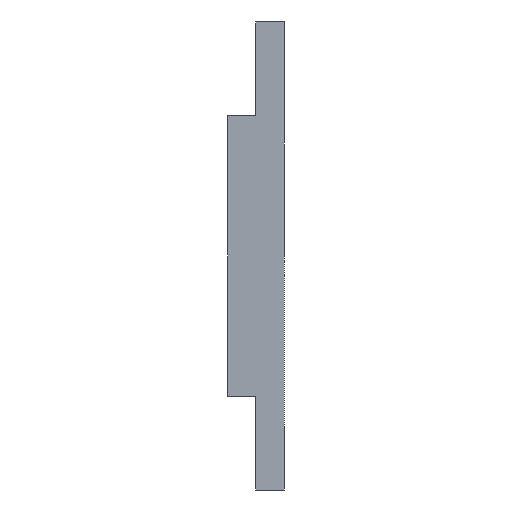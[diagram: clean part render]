
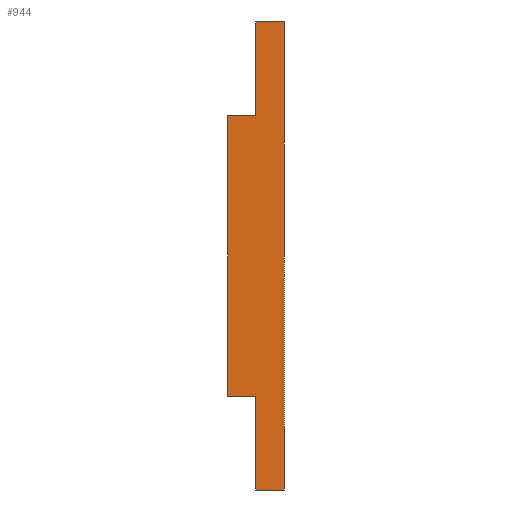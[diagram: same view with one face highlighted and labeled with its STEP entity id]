
A CAD part, left-side view. The second image highlights one B-rep face of the part: STEP entity #944.
In plain terms, the highlighted planar face has unit normal (-1, 0, 0).
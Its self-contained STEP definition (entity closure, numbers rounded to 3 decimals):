
#6 = LINE ( 'NONE', #756, #823 ) ;
#18 = PLANE ( 'NONE',  #511 ) ;
#28 = CARTESIAN_POINT ( 'NONE',  ( 0., 0., -25. ) ) ;
#34 = LINE ( 'NONE', #643, #397 ) ;
#41 = VECTOR ( 'NONE', #421, 1000. ) ;
#75 = VECTOR ( 'NONE', #122, 1000. ) ;
#103 = ORIENTED_EDGE ( 'NONE', *, *, #389, .F. ) ;
#114 = VERTEX_POINT ( 'NONE', #408 ) ;
#122 = DIRECTION ( 'NONE',  ( 0., 0., 1. ) ) ;
#124 = CARTESIAN_POINT ( 'NONE',  ( 0., 3., -25. ) ) ;
#137 = LINE ( 'NONE', #441, #884 ) ;
#161 = CARTESIAN_POINT ( 'NONE',  ( 0., 6., -15. ) ) ;
#171 = EDGE_CURVE ( 'NONE', #376, #194, #427, .T. ) ;
#174 = ORIENTED_EDGE ( 'NONE', *, *, #690, .T. ) ;
#175 = VECTOR ( 'NONE', #546, 1000. ) ;
#190 = ORIENTED_EDGE ( 'NONE', *, *, #171, .T. ) ;
#194 = VERTEX_POINT ( 'NONE', #416 ) ;
#196 = LINE ( 'NONE', #458, #175 ) ;
#207 = ORIENTED_EDGE ( 'NONE', *, *, #957, .F. ) ;
#208 = LINE ( 'NONE', #437, #777 ) ;
#248 = EDGE_CURVE ( 'NONE', #114, #194, #196, .T. ) ;
#251 = VERTEX_POINT ( 'NONE', #28 ) ;
#295 = VERTEX_POINT ( 'NONE', #744 ) ;
#329 = VERTEX_POINT ( 'NONE', #359 ) ;
#359 = CARTESIAN_POINT ( 'NONE',  ( 0., 3., 25. ) ) ;
#362 = ORIENTED_EDGE ( 'NONE', *, *, #248, .F. ) ;
#376 = VERTEX_POINT ( 'NONE', #681 ) ;
#389 = EDGE_CURVE ( 'NONE', #295, #329, #208, .T. ) ;
#395 = EDGE_CURVE ( 'NONE', #114, #251, #6, .T. ) ;
#397 = VECTOR ( 'NONE', #809, 1000. ) ;
#408 = CARTESIAN_POINT ( 'NONE',  ( 0., 3., -25. ) ) ;
#416 = CARTESIAN_POINT ( 'NONE',  ( 0., 3., -15. ) ) ;
#421 = DIRECTION ( 'NONE',  ( 0., -1., 0. ) ) ;
#427 = LINE ( 'NONE', #161, #41 ) ;
#436 = DIRECTION ( 'NONE',  ( 0., -1., 0. ) ) ;
#437 = CARTESIAN_POINT ( 'NONE',  ( 0., 3., -25. ) ) ;
#441 = CARTESIAN_POINT ( 'NONE',  ( 0., 6., 15. ) ) ;
#458 = CARTESIAN_POINT ( 'NONE',  ( 0., 3., -25. ) ) ;
#461 = DIRECTION ( 'NONE',  ( 0., -1., 0. ) ) ;
#469 = FACE_OUTER_BOUND ( 'NONE', #836, .T. ) ;
#470 = ORIENTED_EDGE ( 'NONE', *, *, #395, .T. ) ;
#491 = ORIENTED_EDGE ( 'NONE', *, *, #550, .F. ) ;
#511 = AXIS2_PLACEMENT_3D ( 'NONE', #124, #934, #925 ) ;
#546 = DIRECTION ( 'NONE',  ( 0., 0., 1. ) ) ;
#550 = EDGE_CURVE ( 'NONE', #329, #699, #834, .T. ) ;
#640 = VERTEX_POINT ( 'NONE', #692 ) ;
#643 = CARTESIAN_POINT ( 'NONE',  ( 0., 0., -25. ) ) ;
#647 = LINE ( 'NONE', #895, #75 ) ;
#681 = CARTESIAN_POINT ( 'NONE',  ( 0., 6., -15. ) ) ;
#685 = CARTESIAN_POINT ( 'NONE',  ( 0., 3., 25. ) ) ;
#690 = EDGE_CURVE ( 'NONE', #251, #699, #34, .T. ) ;
#692 = CARTESIAN_POINT ( 'NONE',  ( 0., 6., 15. ) ) ;
#699 = VERTEX_POINT ( 'NONE', #889 ) ;
#744 = CARTESIAN_POINT ( 'NONE',  ( 0., 3., 15. ) ) ;
#756 = CARTESIAN_POINT ( 'NONE',  ( 0., 3., -25. ) ) ;
#769 = ORIENTED_EDGE ( 'NONE', *, *, #839, .F. ) ;
#777 = VECTOR ( 'NONE', #921, 1000. ) ;
#802 = VECTOR ( 'NONE', #461, 1000. ) ;
#809 = DIRECTION ( 'NONE',  ( 0., 0., 1. ) ) ;
#823 = VECTOR ( 'NONE', #956, 1000. ) ;
#834 = LINE ( 'NONE', #685, #802 ) ;
#836 = EDGE_LOOP ( 'NONE', ( #174, #491, #103, #769, #207, #190, #362, #470 ) ) ;
#839 = EDGE_CURVE ( 'NONE', #640, #295, #137, .T. ) ;
#884 = VECTOR ( 'NONE', #436, 1000. ) ;
#889 = CARTESIAN_POINT ( 'NONE',  ( 0., 0., 25. ) ) ;
#895 = CARTESIAN_POINT ( 'NONE',  ( 0., 6., -15. ) ) ;
#921 = DIRECTION ( 'NONE',  ( 0., 0., 1. ) ) ;
#925 = DIRECTION ( 'NONE',  ( 0., 0., -1. ) ) ;
#934 = DIRECTION ( 'NONE',  ( 1., 0., 0. ) ) ;
#944 = ADVANCED_FACE ( 'NONE', ( #469 ), #18, .F. ) ;
#956 = DIRECTION ( 'NONE',  ( 0., -1., 0. ) ) ;
#957 = EDGE_CURVE ( 'NONE', #376, #640, #647, .T. ) ;
